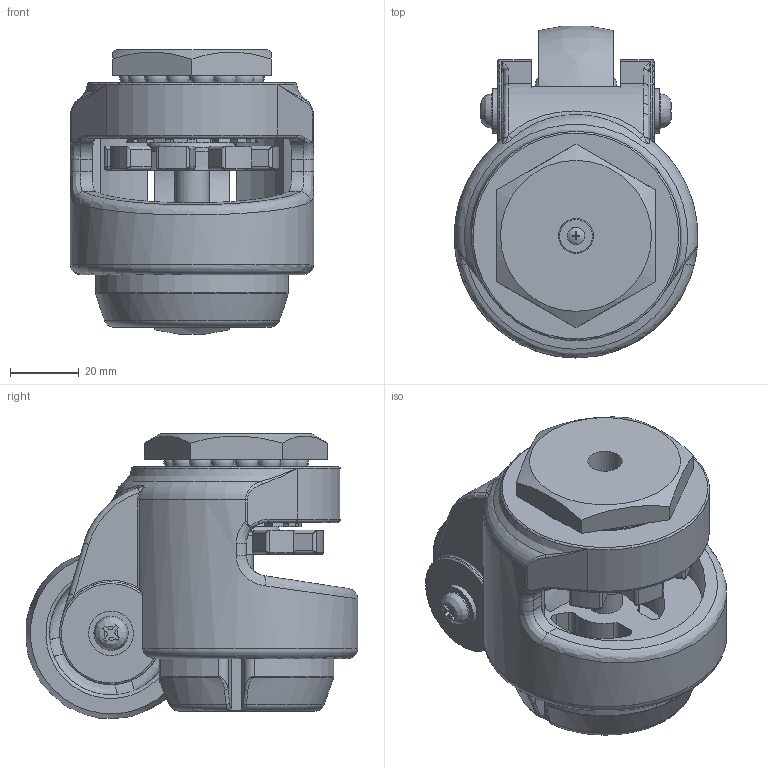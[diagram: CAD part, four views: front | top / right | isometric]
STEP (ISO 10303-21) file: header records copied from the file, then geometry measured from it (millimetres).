
FILE_DESCRIPTION((' '),'2;1');
FILE_NAME('Y:\00. A standard brand\06. 3D Modeling\외부전송용_STEP\CARRYMASTER(STEP)\AC-300S.stp.stp','2011-11-22T13:35:54',(' '),(' '),' ','ACIS',' ');
FILE_SCHEMA(('CONFIG_CONTROL_DESIGN'));
Length unit declared in the file: millimetre
Products named in the file (1): Y:\00. A standard brand\06. 3D Modeling\외부전송용_STEP\CARRYMASTER(STEP)\AC-300S.stp.stp
Bounding box: 71 x 96.78 x 82.98 mm (x, y, z)
Volume: 214818.1 mm3; surface area: 73085.2 mm2
Topology: 4 solids, 7 shells, 679 faces, 1868 edges, 1168 vertices
Faces by surface type: plane 268, cylinder 217, bspline 111, torus 37, sphere 32, cone 14
Full cylindrical faces by diameter (mm): 2.05 x1, 2.5 x2, 3 x1, 5 x1, 8 x2, 8.7 x1, 10 x5, 10.2 x1, 10.5 x2, 12 x1, 13 x2, 19 x2, 20 x1, 23.5 x1, 25 x2, 25.5 x1, 36 x2, 38 x1, 41 x1
Entity records: 27883 total; most frequent: CARTESIAN_POINT 11624, DIRECTION 3395, ORIENTED_EDGE 3336, EDGE_CURVE 1668, AXIS2_PLACEMENT_3D 1380, VERTEX_POINT 1083, EDGE_LOOP 821, CIRCLE 714
